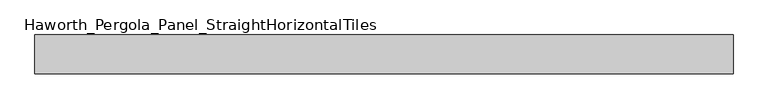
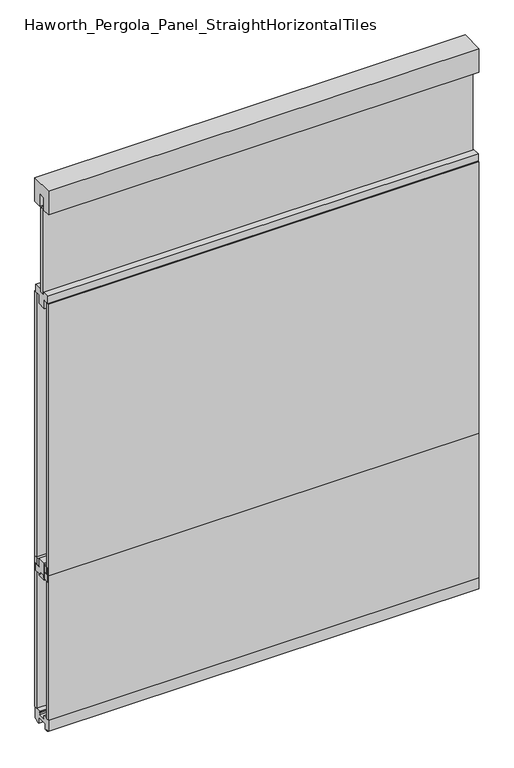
"""IFC4 building model written with IfcOpenShell, lengths in millimetres: furniture geometry, Haworth_Pergola_Panel_StraightHorizontalTiles : Horizontal Tiles (28h 48h 16h)- 96h 72w."""

from ifc_helpers import new_model, si_unit, frame, origin, place, context, project, spatial, polyline, outline, extrude, source, transform, mapped, element, save


def haworth_pergola_panel_straighthorizontaltiles_63bf140b(model_context):
    return source(origin(), model_context, "Body", "SweptSolid", [
        extrude(outline(polyline([(12.7, 679.45), (12.7, 692.15), (-12.7, 692.15), (-12.7, 679.45), (-44.45, 679.45), (-44.45, 711.2), (-19.05, 711.2), (-19.05, 749.3), (19.05, 749.3), (19.05, 711.2), (44.45, 711.2), (44.45, 679.45), (12.7, 679.45)])), frame((-876.3, 0.0, 0.0), z_axis=(1.0, 0.0, 0.0), x_axis=(0.0, 1.0, 0.0)), (0.0, 0.0, 1.0), 1828.8),
        extrude(outline(polyline([(12.7, 1962.15), (44.45, 1962.15), (44.45, 1930.4), (19.05, 1930.4), (19.05, 1892.3), (-19.05, 1892.3), (-19.05, 1930.4), (-44.45, 1930.4), (-44.45, 1962.15), (-12.7, 1962.15), (-12.7, 1949.45), (12.7, 1949.45), (12.7, 1962.15)])), frame((-876.3, 0.0, 0.0), z_axis=(1.0, 0.0, 0.0), x_axis=(0.0, 1.0, 0.0)), (0.0, 0.0, 1.0), 1828.8),
        extrude(outline(polyline([(-876.3, 50.8), (952.5, 50.8), (952.5, 38.1), (-876.3, 38.1), (-876.3, 50.8)])), frame((0.0, 0.0, 711.2), z_axis=(0.0, 0.0, 1.0), x_axis=(1.0, 0.0, 0.0)), (0.0, 0.0, 1.0), 1219.2),
        extrude(outline(polyline([(-876.3, -38.1), (952.5, -38.1), (952.5, -50.8), (-876.3, -50.8), (-876.3, -38.1)])), frame((0.0, 0.0, 711.2), z_axis=(0.0, 0.0, 1.0), x_axis=(1.0, 0.0, 0.0)), (0.0, 0.0, 1.0), 1219.2),
        extrude(outline(polyline([(-876.3, 6.35), (952.5, 6.35), (952.5, -6.35), (-876.3, -6.35), (-876.3, 6.35)])), frame((0.0, 0.0, 1930.4), z_axis=(0.0, 0.0, 1.0), x_axis=(1.0, 0.0, 0.0)), (0.0, 0.0, 1.0), 401.4390625),
        extrude(outline(polyline([(12.7, 742.95), (44.45, 742.95), (44.45, 711.2), (19.05, 711.2), (19.05, 673.1), (-19.05, 673.1), (-19.05, 711.2), (-44.45, 711.2), (-44.45, 742.95), (-12.7, 742.95), (-12.7, 730.25), (12.7, 730.25), (12.7, 742.95)])), frame((-876.3, 0.0, 0.0), z_axis=(1.0, 0.0, 0.0), x_axis=(0.0, 1.0, 0.0)), (0.0, 0.0, 1.0), 1828.8),
        extrude(outline(polyline([(-876.3, 50.8), (952.5, 50.8), (952.5, 38.1), (-876.3, 38.1), (-876.3, 50.8)])), frame((0.0, 0.0, 63.5), z_axis=(0.0, 0.0, 1.0), x_axis=(1.0, 0.0, 0.0)), (0.0, 0.0, 1.0), 647.7),
        extrude(outline(polyline([(-876.3, -38.1), (952.5, -38.1), (952.5, -50.8), (-876.3, -50.8), (-876.3, -38.1)])), frame((0.0, 0.0, 63.5), z_axis=(0.0, 0.0, 1.0), x_axis=(1.0, 0.0, 0.0)), (0.0, 0.0, 1.0), 647.7),
        extrude(outline(polyline([(-50.8, 2438.4), (50.8, 2438.4), (50.8, 2331.8390625), (15.2182948, 2331.8390625), (15.2182948, 2388.7001663), (-15.2182948, 2388.7001663), (-15.2182948, 2331.8390625), (-50.8, 2331.8390625), (-50.8, 2438.4)])), frame((-876.3, 0.0, 0.0), z_axis=(1.0, 0.0, 0.0), x_axis=(0.0, 1.0, 0.0)), (0.0, 0.0, 1.0), 1828.8),
        extrude(outline(polyline([(-16.2000002, 63.5), (-16.5085717, 61.7499999), (-13.3999996, 61.7499999), (-13.3999996, 58.8973461), (-15.4000002, 59.2499999), (-15.4000002, 48.3500004), (15.4000003, 48.3500004), (15.4000003, 59.2499999), (13.3999997, 58.8973461), (13.3999997, 61.7499999), (16.5085718, 61.7499999), (16.2000003, 63.5), (50.0000004, 63.5), (50.0000004, 12.6999985), (40.9499987, 12.6999985), (38.9499981, 10.6999979), (28.9499999, 10.6999979), (28.9499999, 7.6999994), (38.9499981, 7.6999994), (38.9499981, 5.6999988), (23.7499993, 5.6999988), (23.7499993, 31.4500009), (-23.7499992, 31.4500009), (-23.7499992, 5.6999988), (-38.949998, 5.6999988), (-38.949998, 7.6999994), (-28.9499998, 7.6999994), (-28.9499998, 10.6999979), (-38.949998, 10.6999979), (-40.9499986, 12.6999985), (-50.0000003, 12.6999985), (-50.0000003, 63.5), (-16.2000002, 63.5)])), frame((-876.3, 0.0, 0.0), z_axis=(1.0, 0.0, 0.0), x_axis=(0.0, 1.0, 0.0)), (0.0, 0.0, 1.0), 1828.8),
    ])


if __name__ == "__main__":
    model = new_model("IFC4")
    model_context = context("Model", 3, world=origin())
    ifc_project = project(units=[si_unit("LENGTHUNIT", "METRE", prefix="MILLI")], contexts=[model_context])
    site = spatial("IfcSite", under=ifc_project)
    building = spatial("IfcBuilding", under=site)
    placement = place(None, origin())
    haworth_pergola_panel_straighthorizontaltiles_shape = haworth_pergola_panel_straighthorizontaltiles_63bf140b(model_context)
    element("IfcFurniture", 1, ObjectType="Haworth_Pergola_Panel_StraightHorizontalTiles : Horizontal Tiles (28h 48h 16h)- 96h 72w", at=placement, inside=building, context=model_context, shape_type="MappedRepresentation", body=[
        mapped(haworth_pergola_panel_straighthorizontaltiles_shape, transform((0.0, 0.0, 0.0), x_axis=(1.0, 0.0, 0.0), y_axis=(0.0, 1.0, 0.0), z_axis=(0.0, 0.0, 1.0))),
    ])
    save(model, "model.ifc")
